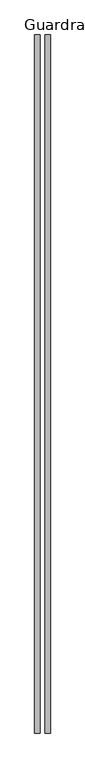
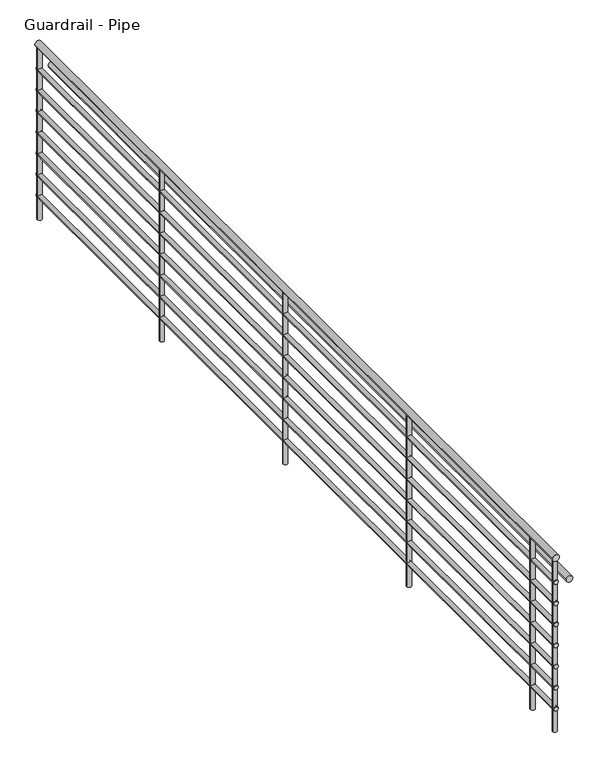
"""IFC4 building model written with IfcOpenShell, lengths in millimetres: railing geometry, Guardrail - Pipe."""

import ifcopenshell
import ifcopenshell.guid

model = None  # the IFC model being written
_history = None  # IfcOwnerHistory: only IFC2X3 demands one
_inside = {}  # id of a spatial element -> (the spatial element, [elements in it])
_under = {}  # id of a project, library or spatial element -> (it, [spatial elements below it])
_declared = {}  # id of a project -> (the project, [libraries it declares])
_typed = {}  # id of a type object -> (the type object, [elements of that type])
_made_of = {}  # id of a material, layer set ... -> (it, [elements and type objects made of it])


def new_model(schema):
    """Start an empty IFC model of exactly this schema.

    Asked for "IFC4X3", IfcOpenShell would pick the latest addendum, in which some entities
    have other attributes; the version numbers below select the first issue.
    IFC2X3 requires an IfcOwnerHistory on every rooted entity: one is made here for all.
    """
    global model, _history
    if schema == "IFC4X3":
        model = ifcopenshell.file(schema_version=(4, 3, 0, 0))
    else:
        model = ifcopenshell.file(schema=schema)
    _inside.clear()
    _under.clear()
    _declared.clear()
    _typed.clear()
    _made_of.clear()
    _history = None
    if model.schema == "IFC2X3":
        org = make("IfcOrganization", Name="unknown")
        user = make(
            "IfcPersonAndOrganization",
            ThePerson=make("IfcPerson", FamilyName="unknown"),
            TheOrganization=org,
        )
        app = make(
            "IfcApplication",
            ApplicationDeveloper=org,
            Version="unknown",
            ApplicationFullName="unknown",
            ApplicationIdentifier="unknown",
        )
        _history = make(
            "IfcOwnerHistory",
            OwningUser=user,
            OwningApplication=app,
            ChangeAction="ADDED",
            CreationDate=0,
        )
    return model


def make(cls, **values):
    """One entity of the class cls with the attributes given. An attribute that is None is left unset."""
    return model.create_entity(
        cls, **{name: value for name, value in values.items() if value is not None}
    )


def rooted(cls, **values):
    """An entity with a GlobalId (a new one), such as an element, a storey or a relation."""
    return make(cls, GlobalId=ifcopenshell.guid.new(), OwnerHistory=_history, **values)


def si_unit(unit_type, name, prefix=None):
    """IfcSIUnit, for example si_unit("LENGTHUNIT", "METRE", prefix="MILLI")."""
    return make("IfcSIUnit", UnitType=unit_type, Prefix=prefix, Name=name)


def assignment(units):
    """IfcUnitAssignment: the units of a project."""
    return None if units is None else make("IfcUnitAssignment", Units=units)


def point(xyz):
    """IfcCartesianPoint."""
    return None if xyz is None else make("IfcCartesianPoint", Coordinates=xyz)


def direction(xyz):
    """IfcDirection."""
    return None if xyz is None else make("IfcDirection", DirectionRatios=xyz)


def frame(location, z_axis=None, x_axis=None):
    """IfcAxis2Placement3D, a coordinate frame: its origin and axes. An axis left out is left unset."""
    return make(
        "IfcAxis2Placement3D",
        Location=point(location),
        Axis=direction(z_axis),
        RefDirection=direction(x_axis),
    )


def frame_2d(location, x_axis=None):
    """IfcAxis2Placement2D, a coordinate frame in the plane: its origin and x axis."""
    return make(
        "IfcAxis2Placement2D", Location=point(location), RefDirection=direction(x_axis)
    )


def origin():
    """The frame at (0, 0, 0) with its axes left unset."""
    return frame((0.0, 0.0, 0.0))


def origin_with_axes():
    """The frame at (0, 0, 0) with the z axis (0, 0, 1) and the x axis (1, 0, 0) written out."""
    return frame((0.0, 0.0, 0.0), z_axis=(0.0, 0.0, 1.0), x_axis=(1.0, 0.0, 0.0))


def place(relative_to, where):
    """IfcLocalPlacement: puts the frame where relative to a parent placement (None: the world)."""
    return make(
        "IfcLocalPlacement", PlacementRelTo=relative_to, RelativePlacement=where
    )


def context(
    kind, dimensions, precision=None, world=None, true_north=None, identifier=None
):
    """IfcGeometricRepresentationContext, for example the 3D "Model" context."""
    return make(
        "IfcGeometricRepresentationContext",
        ContextIdentifier=identifier,
        ContextType=kind,
        CoordinateSpaceDimension=dimensions,
        Precision=precision,
        WorldCoordinateSystem=world,
        TrueNorth=true_north,
    )


def project(units=None, contexts=None):
    """IfcProject with its units and contexts."""
    return rooted(
        "IfcProject",
        Name="project",
        RepresentationContexts=contexts,
        UnitsInContext=assignment(units),
    )


def spatial(cls, under=None, at=None, **own):
    """A site, building, storey or space (cls), placed at a placement, below another one or the project."""
    s = rooted(cls, ObjectPlacement=at, **own)
    if under is not None:
        _under.setdefault(under.id(), (under, []))[1].append(s)
    return s


def circle_curve(where, radius):
    """IfcCircle in the frame where."""
    return make("IfcCircle", Position=where, Radius=radius)


def trimmed(basis, trim1, trim2, sense, master):
    """IfcTrimmedCurve: the piece of a basis curve between two trims."""
    return make(
        "IfcTrimmedCurve",
        BasisCurve=basis,
        Trim1=trim1,
        Trim2=trim2,
        SenseAgreement=sense,
        MasterRepresentation=master,
    )


def segment(curve, same_sense, transition):
    """IfcCompositeCurveSegment."""
    return make(
        "IfcCompositeCurveSegment",
        Transition=transition,
        SameSense=same_sense,
        ParentCurve=curve,
    )


def composite_curve(segments, self_intersect=None):
    """IfcCompositeCurve: segments joined end to end."""
    return make("IfcCompositeCurve", Segments=segments, SelfIntersect=self_intersect)


def outline(outer, holes=None, kind="AREA"):
    """IfcArbitraryClosedProfileDef: a profile drawn as a closed curve; with holes, ...WithVoids."""
    if holes is None:
        return make("IfcArbitraryClosedProfileDef", ProfileType=kind, OuterCurve=outer)
    return make(
        "IfcArbitraryProfileDefWithVoids",
        ProfileType=kind,
        OuterCurve=outer,
        InnerCurves=holes,
    )


def extrude(swept, where, along, depth):
    """IfcExtrudedAreaSolid: the profile swept, set in the frame where, extruded along a direction by depth."""
    return make(
        "IfcExtrudedAreaSolid",
        SweptArea=swept,
        Position=where,
        ExtrudedDirection=direction(along),
        Depth=depth,
    )


def shape(context_of_items, identifier, shape_type, items):
    """IfcShapeRepresentation: the items that make up one representation, for example the "Body"."""
    return make(
        "IfcShapeRepresentation",
        ContextOfItems=context_of_items,
        RepresentationIdentifier=identifier,
        RepresentationType=shape_type,
        Items=items,
    )


def source(mapping_origin, context_of_items, identifier, shape_type, items):
    """IfcRepresentationMap: a shape defined once, which mapped items show again and again."""
    return make(
        "IfcRepresentationMap",
        MappingOrigin=mapping_origin,
        MappedRepresentation=shape(context_of_items, identifier, shape_type, items),
    )


def transform(
    local_origin,
    x_axis=None,
    y_axis=None,
    z_axis=None,
    scale=None,
    scale2=None,
    scale3=None,
    uniform=True,
):
    """IfcCartesianTransformationOperator3D, or its non-uniform kind. x_axis, y_axis, z_axis: its Axis1, 2, 3."""
    if uniform:
        return make(
            "IfcCartesianTransformationOperator3D",
            Axis1=direction(x_axis),
            Axis2=direction(y_axis),
            LocalOrigin=point(local_origin),
            Scale=scale,
            Axis3=direction(z_axis),
        )
    return make(
        "IfcCartesianTransformationOperator3DnonUniform",
        Axis1=direction(x_axis),
        Axis2=direction(y_axis),
        LocalOrigin=point(local_origin),
        Scale=scale,
        Axis3=direction(z_axis),
        Scale2=scale2,
        Scale3=scale3,
    )


def mapped(mapping_source, mapping_target):
    """IfcMappedItem: shows the shape of a source again, moved by a transform."""
    return make(
        "IfcMappedItem", MappingSource=mapping_source, MappingTarget=mapping_target
    )


def made_of(thing, what):
    """Note that an element or type object is made of a material, layer set ...; save() writes the relation."""
    if what is not None:
        _made_of.setdefault(what.id(), (what, []))[1].append(thing)
    return thing


def element(
    cls,
    number,
    at=None,
    inside=None,
    cuts=None,
    type_object=None,
    material=None,
    context=None,
    identifier="Body",
    shape_type=None,
    held_by="IfcProductDefinitionShape",
    body=None,
    shapes=None,
    **own,
):
    """One element of the class cls, such as IfcWall. Its Tag is "e" and its number.

    at: its placement. inside: the storey or other place that contains it. cuts: it is an
    opening in that element (IfcRelVoidsElement). A single representation is given by context,
    identifier, shape_type and body (its items); several are given by shapes. held_by: the class
    of the entity that holds the representations. save() writes the other relations.
    """
    e = rooted(cls, Tag="e%d" % number, ObjectPlacement=at, **own)
    if body is not None:
        shapes = [shape(context, identifier, shape_type, body)]
    if shapes is not None:
        e.Representation = make(held_by, Representations=shapes)
    if inside is not None:
        _inside.setdefault(inside.id(), (inside, []))[1].append(e)
    if cuts is not None:
        rooted(
            "IfcRelVoidsElement", RelatingBuildingElement=cuts, RelatedOpeningElement=e
        )
    if type_object is not None:
        _typed.setdefault(type_object.id(), (type_object, []))[1].append(e)
    return made_of(e, material)


def aggregate(whole, parts):
    """IfcRelAggregates: a whole, such as a stair, and the parts it consists of."""
    return rooted("IfcRelAggregates", RelatingObject=whole, RelatedObjects=parts)


def save(model, path):
    """Write the relations noted so far, then the file.

    IfcRelAggregates (storeys below a building ...), IfcRelContainedInSpatialStructure (elements
    in a storey), IfcRelDefinesByType, IfcRelAssociatesMaterial and IfcRelDeclares: one each for
    every whole, place, type object, material and project.
    """
    for whole, parts in _under.values():
        aggregate(whole, parts)
    for where, things in _inside.values():
        rooted(
            "IfcRelContainedInSpatialStructure",
            RelatedElements=things,
            RelatingStructure=where,
        )
    for kind, things in _typed.values():
        rooted("IfcRelDefinesByType", RelatedObjects=things, RelatingType=kind)
    for what, things in _made_of.values():
        rooted("IfcRelAssociatesMaterial", RelatedObjects=things, RelatingMaterial=what)
    for by, libraries in _declared.values():
        rooted("IfcRelDeclares", RelatingContext=by, RelatedDefinitions=libraries)
    model.write(path)


def guardrail_pipe_b7ba6c7b(model_context):
    return source(origin(), model_context, "Body", "SweptSolid", [
        extrude(outline(composite_curve([segment(trimmed(circle_curve(frame_2d((1047.75, -30640.9437367)), 19.05), [point((1047.75, -30621.8937367))], [point((1047.75, -30659.9937367))], False, "CARTESIAN"), True, "CONTINUOUS"), segment(trimmed(circle_curve(frame_2d((1047.75, -30640.9437367)), 19.05), [point((1047.75, -30659.9937367))], [point((1047.75, -30621.8937367))], False, "CARTESIAN"), True, "CONTINUOUS")], self_intersect=False)), frame((0.0, 667.1066387, 0.0), z_axis=(0.0, 1.0, 0.0), x_axis=(0.0, 0.0, 1.0)), (0.0, 0.0, 1.0), 5108.575),
        extrude(outline(composite_curve([segment(trimmed(circle_curve(frame_2d((901.7, -30640.9437367)), 12.7), [point((901.7, -30628.2437367))], [point((901.7, -30653.6437367))], False, "CARTESIAN"), True, "CONTINUOUS"), segment(trimmed(circle_curve(frame_2d((901.7, -30640.9437367)), 12.7), [point((901.7, -30653.6437367))], [point((901.7, -30628.2437367))], False, "CARTESIAN"), True, "CONTINUOUS")], self_intersect=False)), frame((0.0, 667.1066387, 0.0), z_axis=(0.0, 1.0, 0.0), x_axis=(0.0, 0.0, 1.0)), (0.0, 0.0, 1.0), 5108.575),
        extrude(outline(composite_curve([segment(trimmed(circle_curve(frame_2d((895.35, -30564.7437367)), 19.05), [point((895.35, -30545.6937367))], [point((895.35, -30583.7937367))], False, "CARTESIAN"), True, "CONTINUOUS"), segment(trimmed(circle_curve(frame_2d((895.35, -30564.7437367)), 19.05), [point((895.35, -30583.7937367))], [point((895.35, -30545.6937367))], False, "CARTESIAN"), True, "CONTINUOUS")], self_intersect=False)), frame((0.0, 667.1066387, 0.0), z_axis=(0.0, 1.0, 0.0), x_axis=(0.0, 0.0, 1.0)), (0.0, 0.0, 1.0), 5108.575),
        extrude(outline(composite_curve([segment(trimmed(circle_curve(frame_2d((774.7, -30640.9437367)), 12.7), [point((774.7, -30628.2437367))], [point((774.7, -30653.6437367))], False, "CARTESIAN"), True, "CONTINUOUS"), segment(trimmed(circle_curve(frame_2d((774.7, -30640.9437367)), 12.7), [point((774.7, -30653.6437367))], [point((774.7, -30628.2437367))], False, "CARTESIAN"), True, "CONTINUOUS")], self_intersect=False)), frame((0.0, 667.1066387, 0.0), z_axis=(0.0, 1.0, 0.0), x_axis=(0.0, 0.0, 1.0)), (0.0, 0.0, 1.0), 5108.575),
        extrude(outline(composite_curve([segment(trimmed(circle_curve(frame_2d((647.7, -30640.9437367)), 12.7), [point((647.7, -30628.2437367))], [point((647.7, -30653.6437367))], False, "CARTESIAN"), True, "CONTINUOUS"), segment(trimmed(circle_curve(frame_2d((647.7, -30640.9437367)), 12.7), [point((647.7, -30653.6437367))], [point((647.7, -30628.2437367))], False, "CARTESIAN"), True, "CONTINUOUS")], self_intersect=False)), frame((0.0, 667.1066387, 0.0), z_axis=(0.0, 1.0, 0.0), x_axis=(0.0, 0.0, 1.0)), (0.0, 0.0, 1.0), 5108.575),
        extrude(outline(composite_curve([segment(trimmed(circle_curve(frame_2d((520.7, -30640.9437367)), 12.7), [point((520.7, -30628.2437367))], [point((520.7, -30653.6437367))], False, "CARTESIAN"), True, "CONTINUOUS"), segment(trimmed(circle_curve(frame_2d((520.7, -30640.9437367)), 12.7), [point((520.7, -30653.6437367))], [point((520.7, -30628.2437367))], False, "CARTESIAN"), True, "CONTINUOUS")], self_intersect=False)), frame((0.0, 667.1066387, 0.0), z_axis=(0.0, 1.0, 0.0), x_axis=(0.0, 0.0, 1.0)), (0.0, 0.0, 1.0), 5108.575),
        extrude(outline(composite_curve([segment(trimmed(circle_curve(frame_2d((393.7, -30640.9437367)), 12.7), [point((393.7, -30628.2437367))], [point((393.7, -30653.6437367))], False, "CARTESIAN"), True, "CONTINUOUS"), segment(trimmed(circle_curve(frame_2d((393.7, -30640.9437367)), 12.7), [point((393.7, -30653.6437367))], [point((393.7, -30628.2437367))], False, "CARTESIAN"), True, "CONTINUOUS")], self_intersect=False)), frame((0.0, 667.1066387, 0.0), z_axis=(0.0, 1.0, 0.0), x_axis=(0.0, 0.0, 1.0)), (0.0, 0.0, 1.0), 5108.575),
        extrude(outline(composite_curve([segment(trimmed(circle_curve(frame_2d((266.7, -30640.9437367)), 12.7), [point((266.7, -30628.2437367))], [point((266.7, -30653.6437367))], False, "CARTESIAN"), True, "CONTINUOUS"), segment(trimmed(circle_curve(frame_2d((266.7, -30640.9437367)), 12.7), [point((266.7, -30653.6437367))], [point((266.7, -30628.2437367))], False, "CARTESIAN"), True, "CONTINUOUS")], self_intersect=False)), frame((0.0, 667.1066387, 0.0), z_axis=(0.0, 1.0, 0.0), x_axis=(0.0, 0.0, 1.0)), (0.0, 0.0, 1.0), 5108.575),
        extrude(outline(composite_curve([segment(trimmed(circle_curve(frame_2d((139.7, -30640.9437367)), 12.7), [point((139.7, -30628.2437367))], [point((139.7, -30653.6437367))], False, "CARTESIAN"), True, "CONTINUOUS"), segment(trimmed(circle_curve(frame_2d((139.7, -30640.9437367)), 12.7), [point((139.7, -30653.6437367))], [point((139.7, -30628.2437367))], False, "CARTESIAN"), True, "CONTINUOUS")], self_intersect=False)), frame((0.0, 667.1066387, 0.0), z_axis=(0.0, 1.0, 0.0), x_axis=(0.0, 0.0, 1.0)), (0.0, 0.0, 1.0), 5108.575),
        extrude(outline(composite_curve([segment(trimmed(circle_curve(frame_2d((-30640.9437367, 898.8816387)), 12.7), [point((-30628.2437367, 898.8816387))], [point((-30653.6437367, 898.8816387))], False, "CARTESIAN"), True, "CONTINUOUS"), segment(trimmed(circle_curve(frame_2d((-30640.9437367, 898.8816387)), 12.7), [point((-30653.6437367, 898.8816387))], [point((-30628.2437367, 898.8816387))], False, "CARTESIAN"), True, "CONTINUOUS")], self_intersect=False)), origin_with_axes(), (0.0, 0.0, 1.0), 1028.7),
        extrude(outline(composite_curve([segment(trimmed(circle_curve(frame_2d((-30640.9437367, 2118.0816387)), 12.7), [point((-30628.2437367, 2118.0816387))], [point((-30653.6437367, 2118.0816387))], False, "CARTESIAN"), True, "CONTINUOUS"), segment(trimmed(circle_curve(frame_2d((-30640.9437367, 2118.0816387)), 12.7), [point((-30653.6437367, 2118.0816387))], [point((-30628.2437367, 2118.0816387))], False, "CARTESIAN"), True, "CONTINUOUS")], self_intersect=False)), origin_with_axes(), (0.0, 0.0, 1.0), 1028.7),
        extrude(outline(composite_curve([segment(trimmed(circle_curve(frame_2d((-30640.9437367, 3337.2816387)), 12.7), [point((-30628.2437367, 3337.2816387))], [point((-30653.6437367, 3337.2816387))], False, "CARTESIAN"), True, "CONTINUOUS"), segment(trimmed(circle_curve(frame_2d((-30640.9437367, 3337.2816387)), 12.7), [point((-30653.6437367, 3337.2816387))], [point((-30628.2437367, 3337.2816387))], False, "CARTESIAN"), True, "CONTINUOUS")], self_intersect=False)), origin_with_axes(), (0.0, 0.0, 1.0), 1028.7),
        extrude(outline(composite_curve([segment(trimmed(circle_curve(frame_2d((-30640.9437367, 4556.4816387)), 12.7), [point((-30628.2437367, 4556.4816387))], [point((-30653.6437367, 4556.4816387))], False, "CARTESIAN"), True, "CONTINUOUS"), segment(trimmed(circle_curve(frame_2d((-30640.9437367, 4556.4816387)), 12.7), [point((-30653.6437367, 4556.4816387))], [point((-30628.2437367, 4556.4816387))], False, "CARTESIAN"), True, "CONTINUOUS")], self_intersect=False)), origin_with_axes(), (0.0, 0.0, 1.0), 1028.7),
        extrude(outline(composite_curve([segment(trimmed(circle_curve(frame_2d((-30640.9437367, 679.8066387)), 12.7), [point((-30628.2437367, 679.8066387))], [point((-30653.6437367, 679.8066387))], False, "CARTESIAN"), True, "CONTINUOUS"), segment(trimmed(circle_curve(frame_2d((-30640.9437367, 679.8066387)), 12.7), [point((-30653.6437367, 679.8066387))], [point((-30628.2437367, 679.8066387))], False, "CARTESIAN"), True, "CONTINUOUS")], self_intersect=False)), origin_with_axes(), (0.0, 0.0, 1.0), 1028.7),
        extrude(outline(composite_curve([segment(trimmed(circle_curve(frame_2d((-30640.9437367, 5762.9816387)), 12.7), [point((-30628.2437367, 5762.9816387))], [point((-30653.6437367, 5762.9816387))], False, "CARTESIAN"), True, "CONTINUOUS"), segment(trimmed(circle_curve(frame_2d((-30640.9437367, 5762.9816387)), 12.7), [point((-30653.6437367, 5762.9816387))], [point((-30628.2437367, 5762.9816387))], False, "CARTESIAN"), True, "CONTINUOUS")], self_intersect=False)), origin_with_axes(), (0.0, 0.0, 1.0), 1028.7),
    ])


if __name__ == "__main__":
    model = new_model("IFC4")
    model_context = context("Model", 3, world=origin())
    ifc_project = project(units=[si_unit("LENGTHUNIT", "METRE", prefix="MILLI")], contexts=[model_context])
    site = spatial("IfcSite", under=ifc_project)
    building = spatial("IfcBuilding", under=site)
    placement = place(None, origin())
    guardrail_pipe_shape = guardrail_pipe_b7ba6c7b(model_context)
    element("IfcRailing", 1, ObjectType="Guardrail - Pipe", at=placement, inside=building, context=model_context, shape_type="MappedRepresentation", body=[
        mapped(guardrail_pipe_shape, transform((0.0, 0.0, 0.0), x_axis=(1.0, 0.0, 0.0), y_axis=(0.0, 1.0, 0.0), z_axis=(0.0, 0.0, 1.0))),
    ])
    save(model, "model.ifc")
